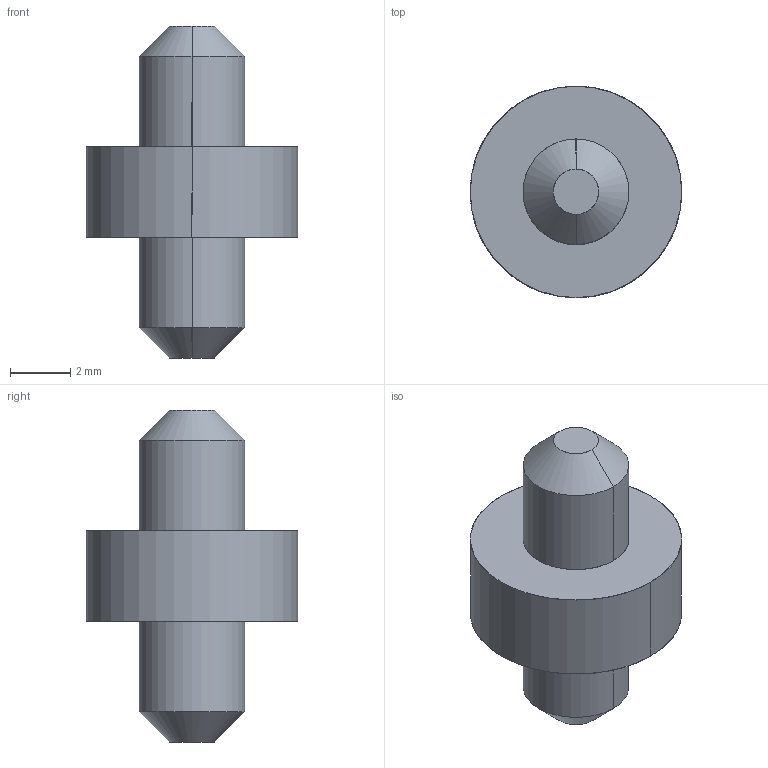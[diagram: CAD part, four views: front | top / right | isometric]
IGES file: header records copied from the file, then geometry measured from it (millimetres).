
Global section: file name: E:\UnigraphicsGraphicData\MISUMI_PRESS-PARTS\IGES\3d_sswc7_00819_r00.igs; native system: NX V5.0; preprocessor: UGS NX IGES V5.0; author: MISUMI; date: 20110105.163202; units: millimetre
Bounding box: 7 x 7 x 11 mm (x, y, z)
Surface area: 215.6 mm2 (no closed solid volume)
Topology: 0 solids, 0 shells, 14 faces, 88 edges, 88 vertices
Faces by surface type: bspline 14
